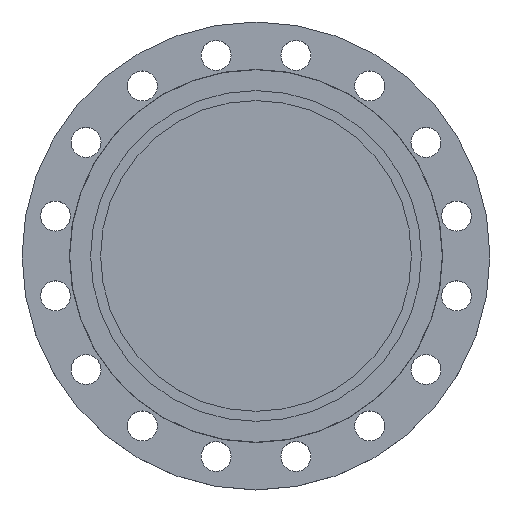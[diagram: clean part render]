
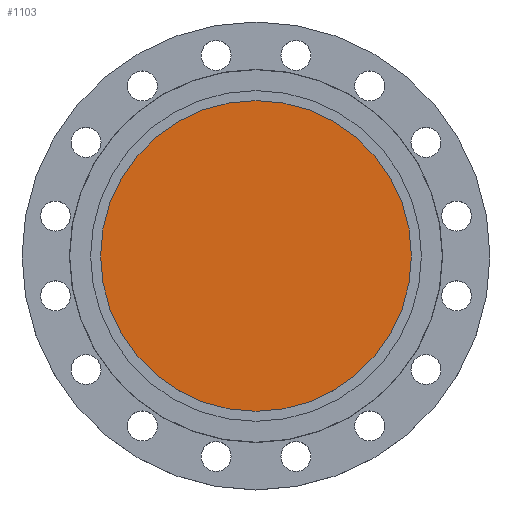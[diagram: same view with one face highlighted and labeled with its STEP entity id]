
A CAD part, top view. The second image highlights one B-rep face of the part: STEP entity #1103.
In plain terms, the highlighted planar face has unit normal (0, 0, 1).
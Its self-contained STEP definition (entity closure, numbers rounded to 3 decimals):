
#43 = CIRCLE ( 'NONE', #1460, 171. ) ;
#215 = CARTESIAN_POINT ( 'NONE',  ( -171., 0., 0. ) ) ;
#225 = EDGE_CURVE ( 'NONE', #374, #700, #43, .T. ) ;
#280 = DIRECTION ( 'NONE',  ( -1., 0., 0. ) ) ;
#281 = DIRECTION ( 'NONE',  ( 0., 0., -1. ) ) ;
#282 = CARTESIAN_POINT ( 'NONE',  ( 0., 0., 0. ) ) ;
#374 = VERTEX_POINT ( 'NONE', #215 ) ;
#591 = EDGE_LOOP ( 'NONE', ( #861, #863 ) ) ;
#663 = EDGE_CURVE ( 'NONE', #700, #374, #1374, .T. ) ;
#700 = VERTEX_POINT ( 'NONE', #1539 ) ;
#758 = AXIS2_PLACEMENT_3D ( 'NONE', #1546, #1545, #1544 ) ;
#861 = ORIENTED_EDGE ( 'NONE', *, *, #225, .F. ) ;
#863 = ORIENTED_EDGE ( 'NONE', *, *, #663, .F. ) ;
#1103 = ADVANCED_FACE ( 'NONE', ( #1139 ), #1138, .T. ) ;
#1133 = DIRECTION ( 'NONE',  ( 1., 0., 0. ) ) ;
#1136 = DIRECTION ( 'NONE',  ( 0., 0., 1. ) ) ;
#1137 = CARTESIAN_POINT ( 'NONE',  ( 0., 0., 0. ) ) ;
#1138 = PLANE ( 'NONE',  #1381 ) ;
#1139 = FACE_OUTER_BOUND ( 'NONE', #591, .T. ) ;
#1374 = CIRCLE ( 'NONE', #758, 171. ) ;
#1381 = AXIS2_PLACEMENT_3D ( 'NONE', #1137, #1136, #1133 ) ;
#1460 = AXIS2_PLACEMENT_3D ( 'NONE', #282, #281, #280 ) ;
#1539 = CARTESIAN_POINT ( 'NONE',  ( 171., 0., 0. ) ) ;
#1544 = DIRECTION ( 'NONE',  ( -1., 0., 0. ) ) ;
#1545 = DIRECTION ( 'NONE',  ( 0., 0., -1. ) ) ;
#1546 = CARTESIAN_POINT ( 'NONE',  ( 0., 0., 0. ) ) ;
